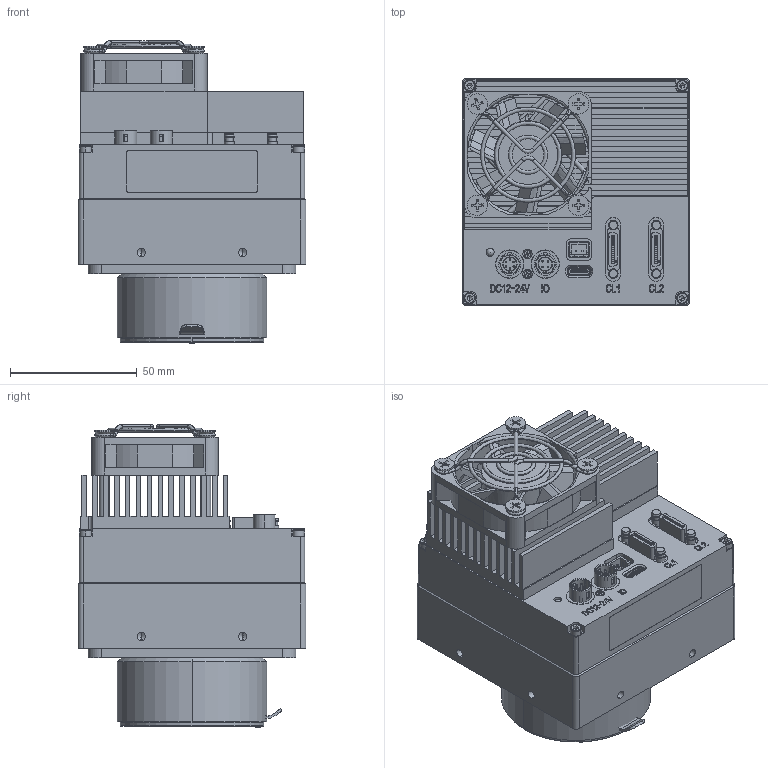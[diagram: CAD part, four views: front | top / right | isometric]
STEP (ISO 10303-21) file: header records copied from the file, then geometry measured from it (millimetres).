
FILE_DESCRIPTION (( 'STEP AP203' ), '1' );
FILE_NAME ('TTS120MCL-9M_total_20220928.STEP', '2023-02-23T05:52:20', ( '微软用户' ), ( '微软中国' ), 'SwSTEP 2.0', 'SolidWorks 2017', '' );
FILE_SCHEMA (( 'CONFIG_CONTROL_DESIGN' ));
Products named in the file (1): TTS120MCL-9M_total_20220928
Bounding box: 90 x 90 x 119.55 mm (x, y, z)
Surface area: 163982.1 mm2 (no closed solid volume)
Topology: 0 solids, 69 shells, 4924 faces, 13313 edges, 8533 vertices
Faces by surface type: plane 3099, cylinder 1271, bspline 283, cone 244, torus 16, sphere 11
Entity records: 165848 total; most frequent: CARTESIAN_POINT 44435, ORIENTED_EDGE 26346, DIRECTION 23538, EDGE_CURVE 13197, LINE 8958, VECTOR 8958, VERTEX_POINT 8519, AXIS2_PLACEMENT_3D 7290
